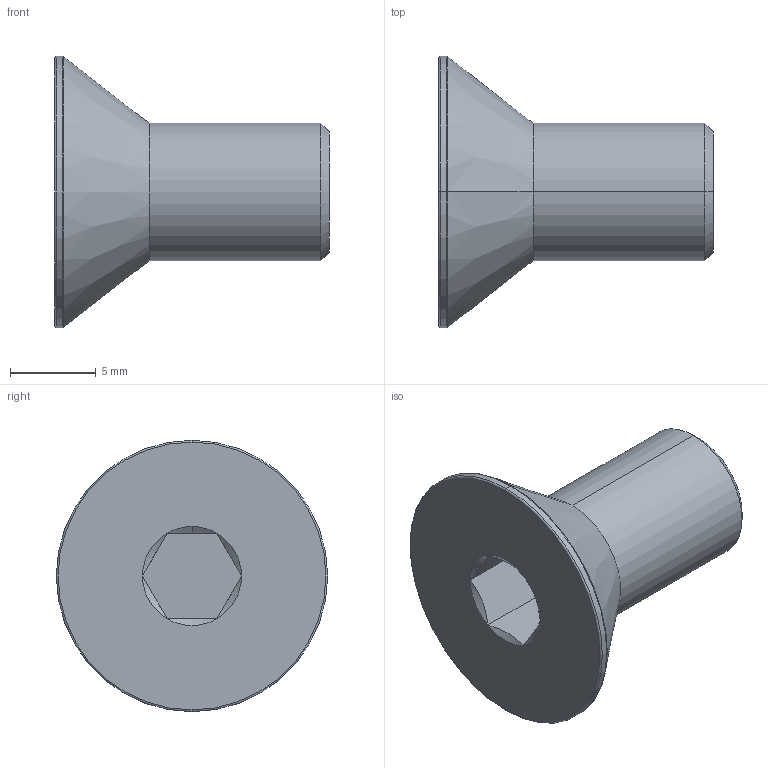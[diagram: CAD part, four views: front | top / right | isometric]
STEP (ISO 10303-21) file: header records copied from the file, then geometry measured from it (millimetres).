
FILE_DESCRIPTION (( 'STEP AP203' ), '1' );
FILE_NAME ('LGDB-304-M8x16.STEP', '2026-08-12T01:48:19', ( '' ), ( '' ), 'SwSTEP 2.0', 'SolidWorks 2020', '' );
FILE_SCHEMA (( 'CONFIG_CONTROL_DESIGN' ));
Length unit declared in the file: millimetre
Products named in the file (1): LGDB-304-M8x16
Bounding box: 16 x 15.8 x 15.8 mm (x, y, z)
Volume: 1111.6 mm3; surface area: 829.4 mm2
Topology: 1 solids, 1 shells, 28 faces, 53 edges, 28 vertices
Faces by surface type: cone 11, plane 9, torus 4, cylinder 4
Entity records: 796 total; most frequent: CARTESIAN_POINT 157, DIRECTION 129, ORIENTED_EDGE 106, AXIS2_PLACEMENT_3D 54, EDGE_CURVE 53, EDGE_LOOP 29, VERTEX_POINT 28, FACE_OUTER_BOUND 28
